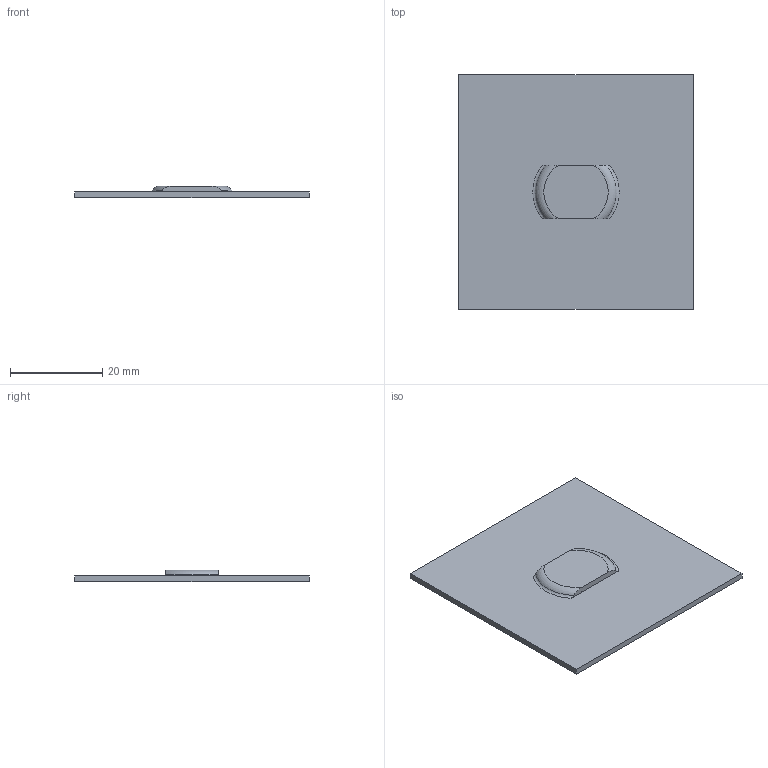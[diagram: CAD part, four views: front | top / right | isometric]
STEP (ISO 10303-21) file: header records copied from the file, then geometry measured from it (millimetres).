
FILE_DESCRIPTION((''),'1');
FILE_NAME('C:/Users/robertnolte/Desktop/WT#712599-10.stp','2012-03-28T00:05:54',(''),(''),'Spatial Interop R21 SP3','Kubotek KeyCreator 2011 V10.5.0 (24766)',' ');
FILE_SCHEMA(('CONFIG_CONTROL_DESIGN'));
Length unit declared in the file: inch
Products named in the file (1): 1
Bounding box: 50.8 x 50.8 x 2.54 mm (x, y, z)
Volume: 3297.9 mm3; surface area: 5500.1 mm2
Topology: 1 solids, 1 shells, 20 faces, 48 edges, 32 vertices
Faces by surface type: plane 12, torus 8
Entity records: 692 total; most frequent: CARTESIAN_POINT 185, ORIENTED_EDGE 96, DIRECTION 94, EDGE_CURVE 48, AXIS2_PLACEMENT_3D 37, VERTEX_POINT 32, EDGE_LOOP 22, ADVANCED_FACE 20
